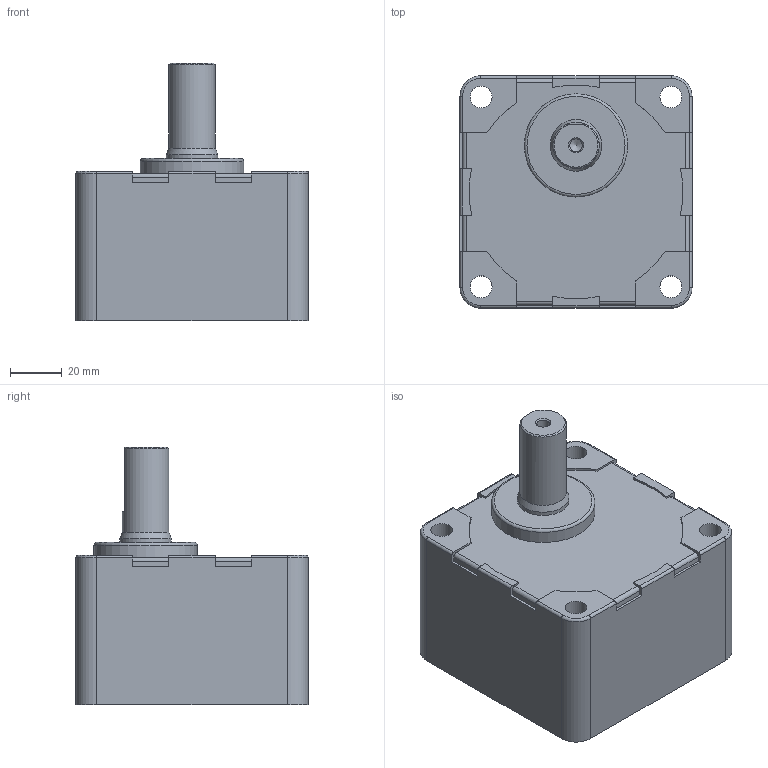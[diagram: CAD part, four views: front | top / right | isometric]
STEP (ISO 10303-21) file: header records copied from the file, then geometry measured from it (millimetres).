
FILE_DESCRIPTION(/* description */ (''),/* implementation_level */ '2;1');
FILE_NAME(/* name */ 'E:\도면작업\2016\0704) 미주향 SG 도면\3D GEAR HEAD\SG9DC18~40.stp',/* time_stamp */ '2016-07-22T14:04:23+09:00',/* author */ ('jy-jung'),/* organization */ (''),/* preprocessor_version */ 'ST-DEVELOPER v15.6',/* originating_system */ 'Autodesk Inventor 2015',/* authorisation */ '');
FILE_SCHEMA (('AUTOMOTIVE_DESIGN { 1 0 10303 214 3 1 1 }'));
Length unit declared in the file: millimetre
Products named in the file (1): SG9DC18~40
Bounding box: 90 x 90 x 100 mm (x, y, z)
Volume: 448950.8 mm3; surface area: 46062.5 mm2
Topology: 1 solids, 1 shells, 104 faces, 279 edges, 181 vertices
Faces by surface type: plane 52, cylinder 41, cone 6, torus 5
Full cylindrical faces by diameter (mm): 4.917 x1, 8.5 x4, 10.5 x1, 18 x1, 20 x1, 40 x1, 83 x1
Entity records: 3195 total; most frequent: DIRECTION 561, CARTESIAN_POINT 549, ORIENTED_EDGE 522, EDGE_CURVE 261, AXIS2_PLACEMENT_3D 197, VERTEX_POINT 179, LINE 167, VECTOR 167
